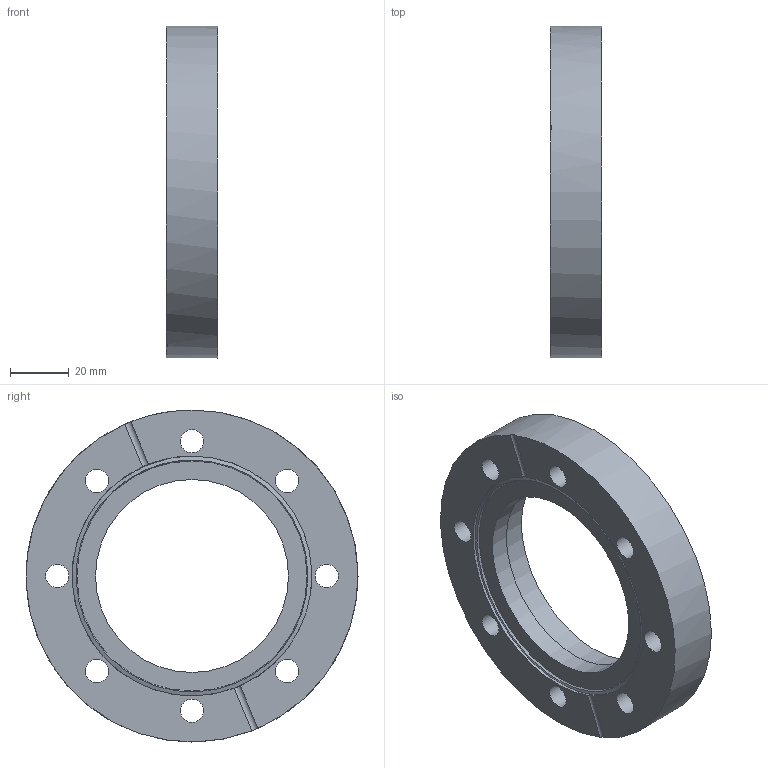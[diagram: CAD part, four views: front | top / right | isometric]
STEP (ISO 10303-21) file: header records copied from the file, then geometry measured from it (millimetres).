
FILE_DESCRIPTION( ( 'Unknown' ), '1' );
FILE_NAME( 'X:/Daten ( aktueller Bestand )/Projekte und Zeichnungen/Solid Edge/15 CF Bauteile/CF-Schweißflansch,fest mit Gewindelöcher/7513FG.stp', 'Unknown', ( 'Unknown' ), ( 'Unknown' ), 'XStep 1.0', 'Unknown', ' ' );
FILE_SCHEMA( ( 'automotive_design' ) );
Length unit declared in the file: millimetre
Products named in the file (1): 1
Bounding box: 17.5 x 113.5 x 113.5 mm (x, y, z)
Volume: 103602.3 mm3; surface area: 26258.1 mm2
Topology: 1 solids, 1 shells, 21 faces, 55 edges, 37 vertices
Faces by surface type: cylinder 14, plane 5, cone 2
Full cylindrical faces by diameter (mm): 8 x8, 66 x1, 70.3 x1, 82 x1, 113.5 x1
Entity records: 824 total; most frequent: CARTESIAN_POINT 144, DIRECTION 106, ORIENTED_EDGE 74, EDGE_LOOP 54, AXIS2_PLACEMENT_3D 51, EDGE_CURVE 37, FACE_OUTER_BOUND 33, VERTEX_POINT 33
